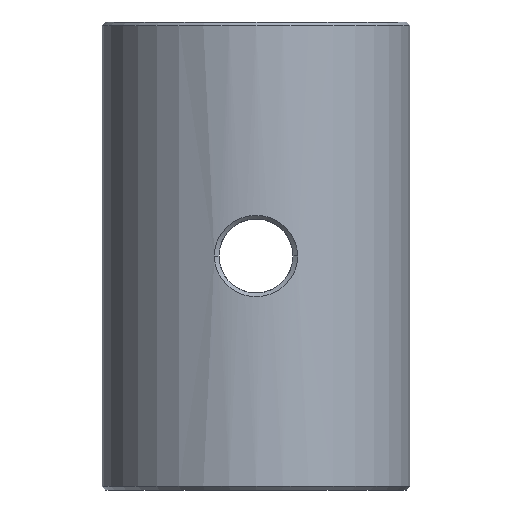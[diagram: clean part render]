
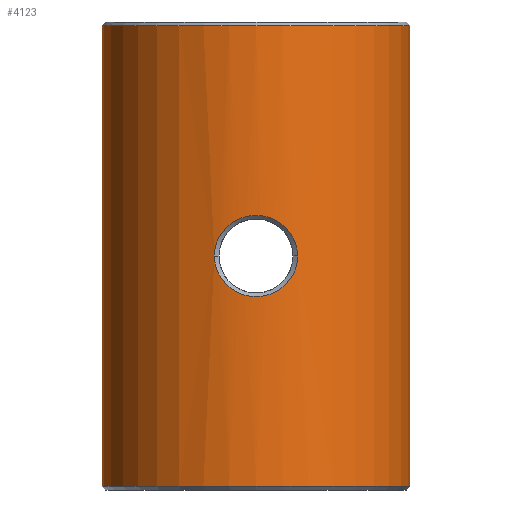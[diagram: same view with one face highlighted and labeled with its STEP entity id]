
A CAD part, left-side view. The second image highlights one B-rep face of the part: STEP entity #4123.
In plain terms, the highlighted cylindrical face has radius 12.5 mm (diameter 25 mm), a partial arc.
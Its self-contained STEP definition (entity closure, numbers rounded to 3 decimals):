
#1177=CARTESIAN_POINT('',(0.,0.,18.7));
#1178=DIRECTION('',(0.,0.,1.));
#1179=DIRECTION('',(0.,1.,0.));
#1180=AXIS2_PLACEMENT_3D('',#1177,#1178,#1179);
#1182=DIRECTION('',(0.,0.,1.));
#1183=VECTOR('',#1182,37.4);
#1184=CARTESIAN_POINT('',(0.,-12.5,
-18.7));
#1185=LINE('',#1184,#1183);
#1186=CARTESIAN_POINT('',(0.,0.,-18.7));
#1187=DIRECTION('',(0.,0.,1.));
#1188=DIRECTION('',(0.,1.,0.));
#1189=AXIS2_PLACEMENT_3D('',#1186,#1187,#1188);
#1191=DIRECTION('',(0.,0.,1.));
#1192=VECTOR('',#1191,37.4);
#1193=CARTESIAN_POINT('',(0.,12.5,
-18.7));
#1194=LINE('',#1193,#1192);
#1195=CARTESIAN_POINT('',(-12.034,3.381,
0.));
#1196=CARTESIAN_POINT('',(-12.034,3.381,
0.208));
#1197=CARTESIAN_POINT('',(-12.045,3.341,
0.622));
#1198=CARTESIAN_POINT('',(-12.096,3.157,1.24));
#1199=CARTESIAN_POINT('',(-12.173,2.85,1.815));
#1200=CARTESIAN_POINT('',(-12.266,2.425,2.331));
#1201=CARTESIAN_POINT('',(-12.359,1.902,2.755));
#1202=CARTESIAN_POINT('',(-12.437,1.304,3.068));
#1203=CARTESIAN_POINT('',(-12.488,0.661,
3.258));
#1204=CARTESIAN_POINT('',(-12.506,-0.004,
3.321));
#1205=CARTESIAN_POINT('',(-12.488,-0.668,
3.257));
#1206=CARTESIAN_POINT('',(-12.436,-1.311,
3.065));
#1207=CARTESIAN_POINT('',(-12.358,-1.908,
2.751));
#1208=CARTESIAN_POINT('',(-12.264,-2.432,
2.325));
#1209=CARTESIAN_POINT('',(-12.172,-2.853,
1.81));
#1210=CARTESIAN_POINT('',(-12.095,-3.161,
1.231));
#1211=CARTESIAN_POINT('',(-12.045,-3.343,
0.613));
#1212=CARTESIAN_POINT('',(-12.034,-3.381,
0.206));
#1213=CARTESIAN_POINT('',(-12.034,-3.381,
0.));
#1215=CARTESIAN_POINT('',(-12.034,-3.381,
0.));
#1216=CARTESIAN_POINT('',(-12.034,-3.381,
-0.208));
#1217=CARTESIAN_POINT('',(-12.045,-3.341,
-0.622));
#1218=CARTESIAN_POINT('',(-12.096,-3.157,
-1.24));
#1219=CARTESIAN_POINT('',(-12.173,-2.85,
-1.815));
#1220=CARTESIAN_POINT('',(-12.266,-2.425,
-2.331));
#1221=CARTESIAN_POINT('',(-12.359,-1.902,
-2.755));
#1222=CARTESIAN_POINT('',(-12.437,-1.304,
-3.068));
#1223=CARTESIAN_POINT('',(-12.488,-0.661,
-3.258));
#1224=CARTESIAN_POINT('',(-12.506,0.004,
-3.321));
#1225=CARTESIAN_POINT('',(-12.488,0.668,
-3.257));
#1226=CARTESIAN_POINT('',(-12.436,1.311,
-3.065));
#1227=CARTESIAN_POINT('',(-12.358,1.908,
-2.751));
#1228=CARTESIAN_POINT('',(-12.264,2.432,
-2.325));
#1229=CARTESIAN_POINT('',(-12.172,2.853,
-1.81));
#1230=CARTESIAN_POINT('',(-12.095,3.161,
-1.231));
#1231=CARTESIAN_POINT('',(-12.045,3.343,
-0.613));
#1232=CARTESIAN_POINT('',(-12.034,3.381,
-0.206));
#1233=CARTESIAN_POINT('',(-12.034,3.381,
0.));
#2476=CARTESIAN_POINT('',(0.,12.5,18.7));
#2477=CARTESIAN_POINT('',(0.,-12.5,18.7));
#2478=VERTEX_POINT('',#2476);
#2479=VERTEX_POINT('',#2477);
#2480=CARTESIAN_POINT('',(0.,12.5,-18.7));
#2481=CARTESIAN_POINT('',(0.,-12.5,-18.7));
#2482=VERTEX_POINT('',#2480);
#2483=VERTEX_POINT('',#2481);
#2534=VERTEX_POINT('',#1195);
#2535=VERTEX_POINT('',#1213);
#4103=CARTESIAN_POINT('',(0.,0.,20.9));
#4104=DIRECTION('',(0.,0.,-1.));
#4105=DIRECTION('',(0.,-1.,0.));
#4106=AXIS2_PLACEMENT_3D('',#4103,#4104,#4105);
#4107=CYLINDRICAL_SURFACE('',#4106,12.5);
#4109=ORIENTED_EDGE('',*,*,#4108,.T.);
#4111=ORIENTED_EDGE('',*,*,#4110,.F.);
#4112=ORIENTED_EDGE('',*,*,#4093,.F.);
#4114=ORIENTED_EDGE('',*,*,#4113,.T.);
#4115=EDGE_LOOP('',(#4109,#4111,#4112,#4114));
#4116=FACE_OUTER_BOUND('',#4115,.F.);
#4118=ORIENTED_EDGE('',*,*,#4117,.F.);
#4120=ORIENTED_EDGE('',*,*,#4119,.F.);
#4121=EDGE_LOOP('',(#4118,#4120));
#4122=FACE_BOUND('',#4121,.F.);
#4123=ADVANCED_FACE('',(#4116,#4122),#4107,.T.);
#1181=CIRCLE('',#1180,12.5);
#1190=CIRCLE('',#1189,12.5);
#1214=B_SPLINE_CURVE_WITH_KNOTS('',3,(#1195,#1196,#1197,#1198,#1199,#1200,#1201,
#1202,#1203,#1204,#1205,#1206,#1207,#1208,#1209,#1210,#1211,#1212,#1213),
.UNSPECIFIED.,.F.,.F.,(4,1,1,1,1,1,1,1,1,1,1,1,1,1,1,1,4),(0.,
0.063,0.125,0.188,0.25,
0.313,0.375,0.438,0.5,
0.562,0.625,0.687,0.75,
0.812,0.875,0.937,1.),.UNSPECIFIED.);
#1234=B_SPLINE_CURVE_WITH_KNOTS('',3,(#1215,#1216,#1217,#1218,#1219,#1220,#1221,
#1222,#1223,#1224,#1225,#1226,#1227,#1228,#1229,#1230,#1231,#1232,#1233),
.UNSPECIFIED.,.F.,.F.,(4,1,1,1,1,1,1,1,1,1,1,1,1,1,1,1,4),(0.,
0.063,0.125,0.188,0.25,
0.313,0.375,0.438,0.5,
0.562,0.625,0.687,0.75,
0.812,0.875,0.937,1.),.UNSPECIFIED.);
#4093=EDGE_CURVE('',#2482,#2483,#1190,.T.);
#4108=EDGE_CURVE('',#2478,#2479,#1181,.T.);
#4110=EDGE_CURVE('',#2483,#2479,#1185,.T.);
#4113=EDGE_CURVE('',#2482,#2478,#1194,.T.);
#4117=EDGE_CURVE('',#2534,#2535,#1214,.T.);
#4119=EDGE_CURVE('',#2535,#2534,#1234,.T.);
